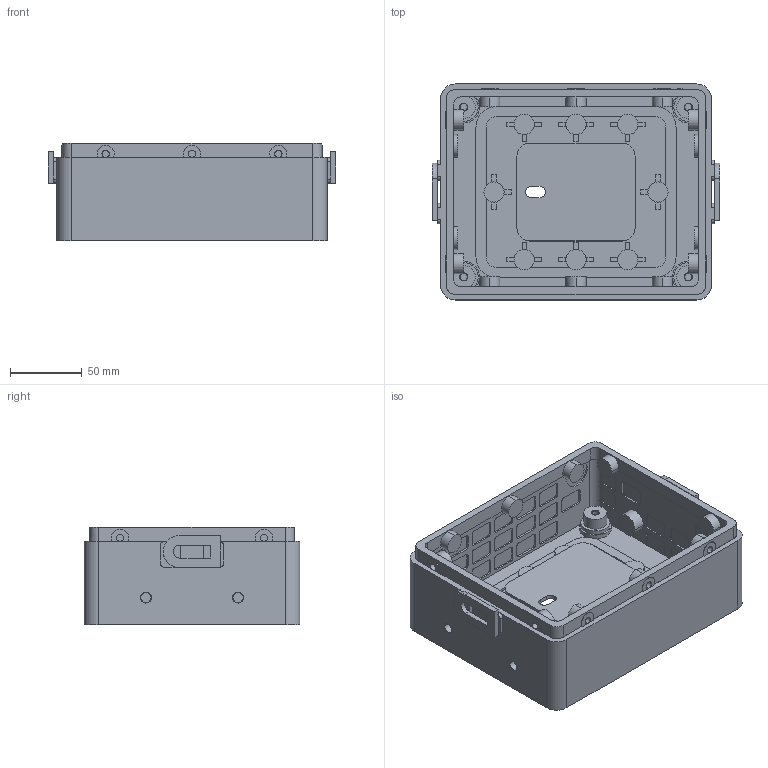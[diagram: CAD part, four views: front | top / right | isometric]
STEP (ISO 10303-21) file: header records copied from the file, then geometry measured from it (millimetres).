
FILE_DESCRIPTION(('CATIA V5 STEP Exchange','CAx-IF Rec.Pracs.--- Model Styling and Organization---1.5--- 2016-08-15','CAx-IF Rec.Pracs.---Supplemental Geometry---1.0---2011-11-01','CAx-IF Rec.Pracs.--- Composite Materials ---3.4---2017-06-13','CAx-IF Rec.Pracs.---Tessellated 3D Geometry---1.0---2015-12-17'),'2;1');
FILE_NAME('C:\Users\icemi\Desktop\RZS_Repository\RES\catia_macros\generated\RES_Enclosure_20260730_133316\RES_MainHousing.stp','2026-07-30T05:34:25+00:00',('none'),('none'),'CATIA Version 5-6 Release 2022 SP6','CATIA V5 STEP AP242 v3','none');
FILE_SCHEMA(('AP242_MANAGED_MODEL_BASED_3D_ENGINEERING_MIM_LF {1 0 10303 442 1 1 4}'));
Length unit declared in the file: millimetre
Products named in the file (1): Part64
Bounding box: 200 x 150 x 68 mm (x, y, z)
Volume: 328607.4 mm3; surface area: 185839.1 mm2
Topology: 1 solids, 1 shells, 1114 faces, 2989 edges, 1969 vertices
Faces by surface type: plane 640, cylinder 474
Entity records: 30435 total; most frequent: ORIENTED_EDGE 5978, CARTESIAN_POINT 5354, DIRECTION 3779, EDGE_CURVE 2989, VERTEX_POINT 1969, VECTOR 1899, LINE 1899, AXIS2_PLACEMENT_3D 1486
